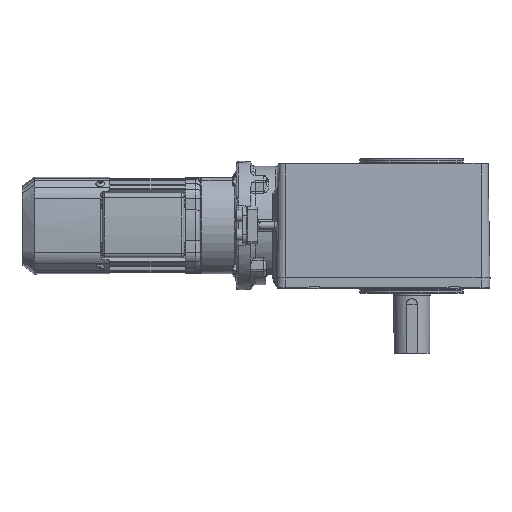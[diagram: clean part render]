
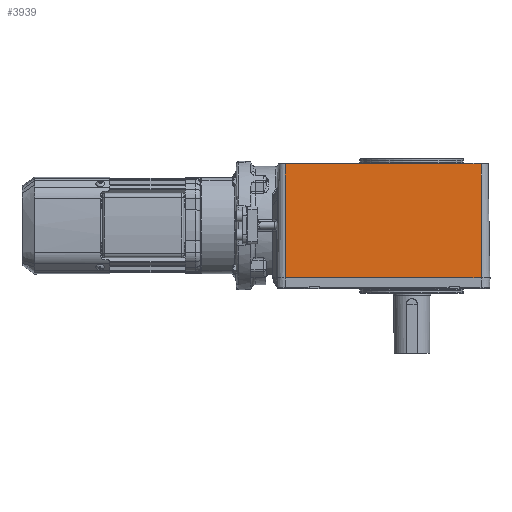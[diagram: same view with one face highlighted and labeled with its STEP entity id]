
A CAD part, top view. The second image highlights one B-rep face of the part: STEP entity #3939.
In plain terms, the highlighted planar face has unit normal (0, 0.018, 1).
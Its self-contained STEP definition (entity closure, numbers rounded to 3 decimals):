
#3939 = ADVANCED_FACE( '', ( #8503 ), #8504, .T. );
#8503 = FACE_OUTER_BOUND( '', #20423, .T. );
#8504 = PLANE( '', #20424 );
#20423 = EDGE_LOOP( '', ( #33833, #33834, #33835, #33836 ) );
#20424 = AXIS2_PLACEMENT_3D( '', #33837, #33838, #33839 );
#33833 = ORIENTED_EDGE( '', *, *, #42135, .F. );
#33834 = ORIENTED_EDGE( '', *, *, #38504, .T. );
#33835 = ORIENTED_EDGE( '', *, *, #42038, .T. );
#33836 = ORIENTED_EDGE( '', *, *, #42136, .F. );
#33837 = CARTESIAN_POINT( '', ( 222.888, -117.268, 91.5 ) );
#33838 = DIRECTION( '', ( 0., 0.017, 1. ) );
#33839 = DIRECTION( '', ( 0., -1., 0.017 ) );
#38504 = EDGE_CURVE( '', #44706, #44704, #44707, .T. );
#42038 = EDGE_CURVE( '', #44704, #42942, #49845, .T. );
#42135 = EDGE_CURVE( '', #44706, #49956, #49957, .T. );
#42136 = EDGE_CURVE( '', #49956, #42942, #49958, .T. );
#42942 = VERTEX_POINT( '', #51003 );
#44704 = VERTEX_POINT( '', #54246 );
#44706 = VERTEX_POINT( '', #54249 );
#44707 = LINE( '', #54250, #54251 );
#49845 = LINE( '', #65258, #65259 );
#49956 = VERTEX_POINT( '', #65462 );
#49957 = LINE( '', #65463, #65464 );
#49958 = LINE( '', #65465, #65466 );
#51003 = CARTESIAN_POINT( '', ( 113.888, -117.268, 91.5 ) );
#54246 = CARTESIAN_POINT( '', ( 113.888, 9.732, 89.283 ) );
#54249 = CARTESIAN_POINT( '', ( 331.888, 9.732, 89.283 ) );
#54250 = CARTESIAN_POINT( '', ( 113.888, 9.732, 89.283 ) );
#54251 = VECTOR( '', #67774, 1000. );
#65258 = CARTESIAN_POINT( '', ( 113.888, -117.268, 91.5 ) );
#65259 = VECTOR( '', #72293, 1000. );
#65462 = CARTESIAN_POINT( '', ( 331.888, -117.268, 91.5 ) );
#65463 = CARTESIAN_POINT( '', ( 331.888, -117.268, 91.5 ) );
#65464 = VECTOR( '', #72377, 1000. );
#65465 = CARTESIAN_POINT( '', ( 113.888, -117.268, 91.5 ) );
#65466 = VECTOR( '', #72378, 1000. );
#67774 = DIRECTION( '', ( -1., 0., 0. ) );
#72293 = DIRECTION( '', ( 0., -1., 0.017 ) );
#72377 = DIRECTION( '', ( 0., -1., 0.017 ) );
#72378 = DIRECTION( '', ( -1., 0., 0. ) );
